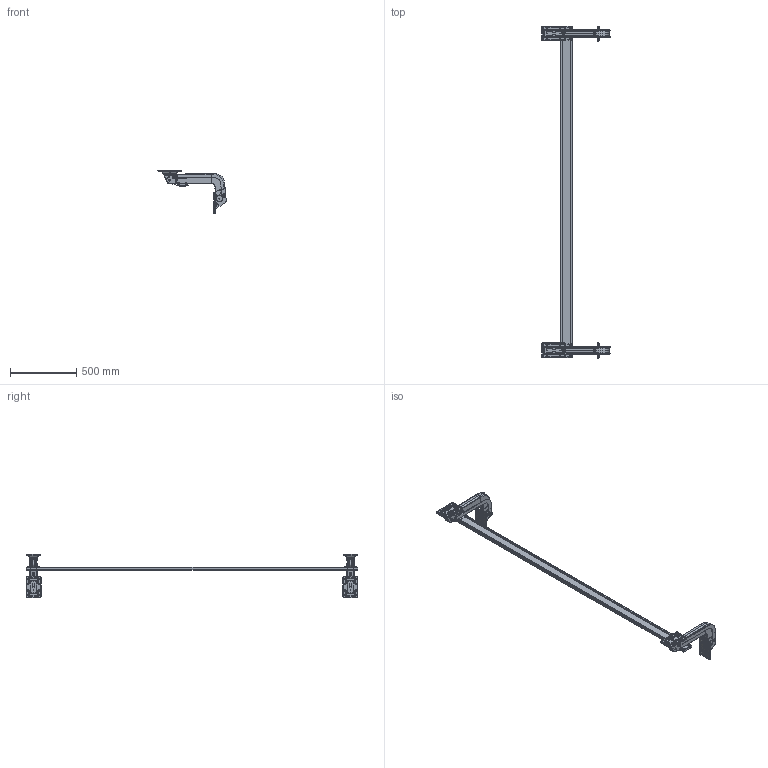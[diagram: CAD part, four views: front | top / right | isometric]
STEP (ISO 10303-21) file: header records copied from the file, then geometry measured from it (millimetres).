
FILE_DESCRIPTION (( 'STEP AP203' ), '1' );
FILE_NAME ('lin-x800h_open.STEP', '2019-01-28T08:26:33', ( '' ), ( '' ), 'SwSTEP 2.0', 'SolidWorks 2016', '' );
FILE_SCHEMA (( 'CONFIG_CONTROL_DESIGN' ));
Length unit declared in the file: millimetre
Products named in the file (19): lin-x800_hinge_plate_b; lin-x800_cover_a; lin-x800_door_plate_b; lin-x800_door_plate_a; lin-x800_hinge_b; lin-x800_arm_a; lin-x800_bar_2500; lin-x800_cap; lin-x800_arm_b; lin-x800_cover_b; lin-x800_hinge_a; lin-x800_hinge_plate_a; lin-x800h_open
Assembly tree (29 placements, depth 4):
  lin-x800h_open
    lin-x800_hinge_a
      lin-x800_hinge_plate_a
        lin-x800_cover_b  x2
        lin-x800_hinge_plate_a
      lin-x800_door_plate_a
        lin-x800_cover_a  x2
        lin-x800_door_plate_a
      lin-x800_arm_a
        lin-x800_arm_a
      lin-x800_arm_b  x2
    lin-x800_hinge_b
      lin-x800_hinge_plate_b
        lin-x800_cover_b  x2
        lin-x800_hinge_plate_b
      lin-x800_door_plate_b
        lin-x800_cover_a  x2
        lin-x800_door_plate_b
      lin-x800_arm_a
        lin-x800_arm_a
      lin-x800_arm_b  x2
    lin-x800_bar_2500
      lin-x800_bar_2500
      lin-x800_cap  x2
Bounding box: 518.12 x 2513.5 x 328.8 mm (x, y, z)
Volume: 7740712.3 mm3; surface area: 1644828.4 mm2
Topology: 21 solids, 21 shells, 6430 faces, 17501 edges, 10876 vertices
Faces by surface type: plane 3286, cylinder 1968, bspline 482, cone 422, torus 192, sphere 80
Entity records: 169110 total; most frequent: CARTESIAN_POINT 40174, ORIENTED_EDGE 27582, DIRECTION 25392, EDGE_CURVE 13791, AXIS2_PLACEMENT_3D 8613, VERTEX_POINT 8573, VECTOR 8166, LINE 8166
